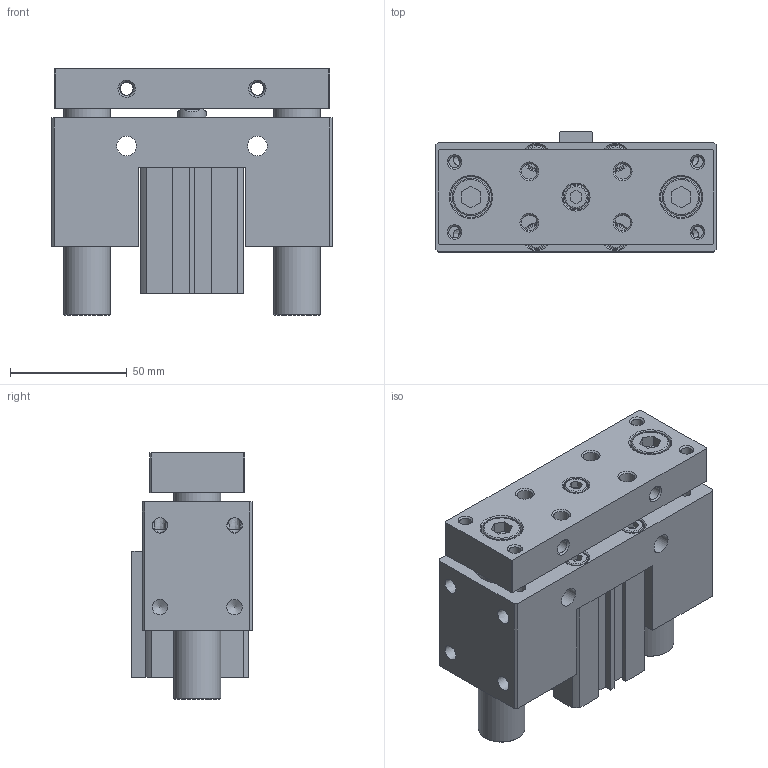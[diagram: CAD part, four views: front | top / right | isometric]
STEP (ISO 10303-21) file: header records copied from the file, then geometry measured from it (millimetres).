
FILE_DESCRIPTION((''),'2;1');
FILE_NAME('I:\3D電子目錄\氣缸\JCB\JCB\JCB32\JCB32x30.stp','2007-08-21T20:25:02',('Administrator'),(''),'Autodesk Inventor 11','Autodesk Inventor 11','');
FILE_SCHEMA(('AUTOMOTIVE_DESIGN { 1 0 10303 214 1 1 1 1 }'));
Length unit declared in the file: millimetre
Products named in the file (1): JCB32
Bounding box: 120 x 51.5 x 105.4 mm (x, y, z)
Volume: 397826.8 mm3; surface area: 97441.4 mm2
Topology: 3 solids, 3 shells, 322 faces, 757 edges, 491 vertices
Faces by surface type: plane 174, cylinder 54, bspline 45, cone 41, torus 8
Full cylindrical faces by diameter (mm): 2.2 x2, 5.1 x4, 6 x2, 6.647 x4, 8 x8, 10 x5, 11 x5, 12 x1, 13 x1, 16 x2, 17.5 x2, 20 x2, 22 x1, 23 x3, 34 x4, 36 x2
Entity records: 9312 total; most frequent: CARTESIAN_POINT 2546, DIRECTION 1348, ORIENTED_EDGE 1196, EDGE_CURVE 598, EDGE_LOOP 538, AXIS2_PLACEMENT_3D 496, VERTEX_POINT 460, VECTOR 356
